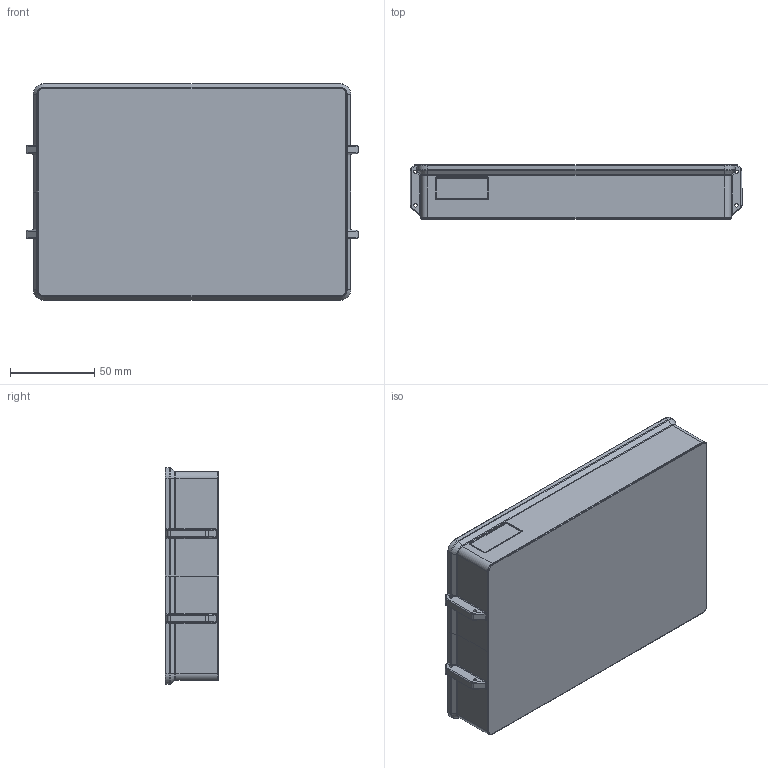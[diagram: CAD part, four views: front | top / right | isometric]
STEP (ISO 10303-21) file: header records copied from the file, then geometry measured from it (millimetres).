
FILE_DESCRIPTION (( 'STEP AP214' ), '1' );
FILE_NAME ('Tiered Storage Box 30.STEP', '2024-06-05T01:17:46', ( '' ), ( '' ), 'SwSTEP 2.0', 'SolidWorks 2022', '' );
FILE_SCHEMA (( 'AUTOMOTIVE_DESIGN' ));
Length unit declared in the file: millimetre
Products named in the file (1): Tiered Storage Box 30
Bounding box: 197 x 32 x 128.4 mm (x, y, z)
Volume: 127395.6 mm3; surface area: 132314.9 mm2
Topology: 1 solids, 1 shells, 761 faces, 1754 edges, 898 vertices
Faces by surface type: cylinder 338, plane 159, torus 102, bspline 90, sphere 60, cone 12
Entity records: 22591 total; most frequent: CARTESIAN_POINT 6376, DIRECTION 3585, ORIENTED_EDGE 3320, EDGE_CURVE 1660, AXIS2_PLACEMENT_3D 1427, VERTEX_POINT 898, EDGE_LOOP 774, FACE_OUTER_BOUND 761
